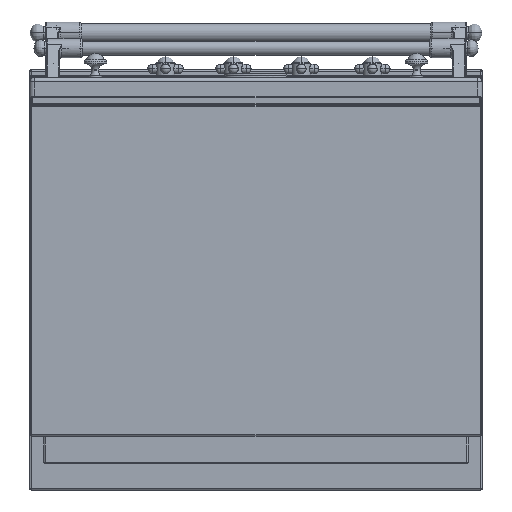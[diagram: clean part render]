
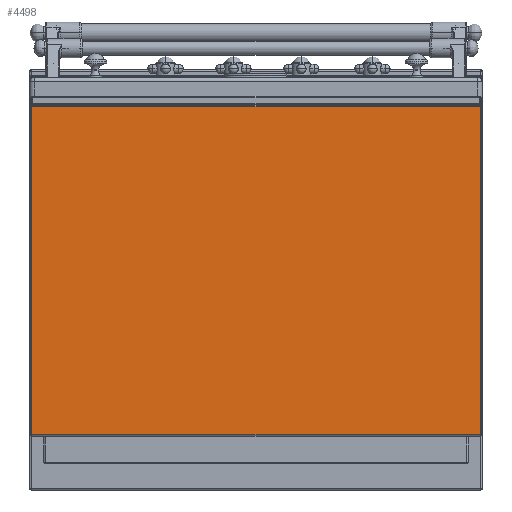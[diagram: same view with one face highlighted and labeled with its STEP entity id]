
A CAD part, front view. The second image highlights one B-rep face of the part: STEP entity #4498.
In plain terms, the highlighted planar face has unit normal (0, -1, 0).
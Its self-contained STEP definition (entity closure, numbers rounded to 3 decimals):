
#4129=DIRECTION('',(0.,0.,-1.));
#4130=VECTOR('',#4129,508.);
#4131=CARTESIAN_POINT('',(347.,0.,254.));
#4132=LINE('',#4131,#4130);
#4133=DIRECTION('',(-1.,0.,0.));
#4134=VECTOR('',#4133,694.);
#4135=CARTESIAN_POINT('',(347.,0.,-254.));
#4136=LINE('',#4135,#4134);
#4137=DIRECTION('',(0.,0.,1.));
#4138=VECTOR('',#4137,508.);
#4139=CARTESIAN_POINT('',(-347.,0.,-254.));
#4140=LINE('',#4139,#4138);
#4141=DIRECTION('',(-1.,0.,0.));
#4142=VECTOR('',#4141,694.);
#4143=CARTESIAN_POINT('',(347.,0.,254.));
#4144=LINE('',#4143,#4142);
#4276=CARTESIAN_POINT('',(347.,0.,254.));
#4277=CARTESIAN_POINT('',(347.,0.,-254.));
#4278=VERTEX_POINT('',#4276);
#4279=VERTEX_POINT('',#4277);
#4288=CARTESIAN_POINT('',(-347.,0.,-254.));
#4289=CARTESIAN_POINT('',(-347.,0.,254.));
#4290=VERTEX_POINT('',#4288);
#4291=VERTEX_POINT('',#4289);
#4486=CARTESIAN_POINT('',(-349.,0.,256.));
#4487=DIRECTION('',(0.,-1.,0.));
#4488=DIRECTION('',(0.,0.,-1.));
#4489=AXIS2_PLACEMENT_3D('',#4486,#4487,#4488);
#4490=PLANE('',#4489);
#4491=ORIENTED_EDGE('',*,*,#4476,.T.);
#4493=ORIENTED_EDGE('',*,*,#4492,.T.);
#4494=ORIENTED_EDGE('',*,*,#4413,.T.);
#4495=ORIENTED_EDGE('',*,*,#4453,.F.);
#4496=EDGE_LOOP('',(#4491,#4493,#4494,#4495));
#4497=FACE_OUTER_BOUND('',#4496,.F.);
#4413=EDGE_CURVE('',#4290,#4291,#4140,.T.);
#4453=EDGE_CURVE('',#4278,#4291,#4144,.T.);
#4476=EDGE_CURVE('',#4278,#4279,#4132,.T.);
#4492=EDGE_CURVE('',#4279,#4290,#4136,.T.);
#4498=ADVANCED_FACE('',(#4497),#4490,.T.);
